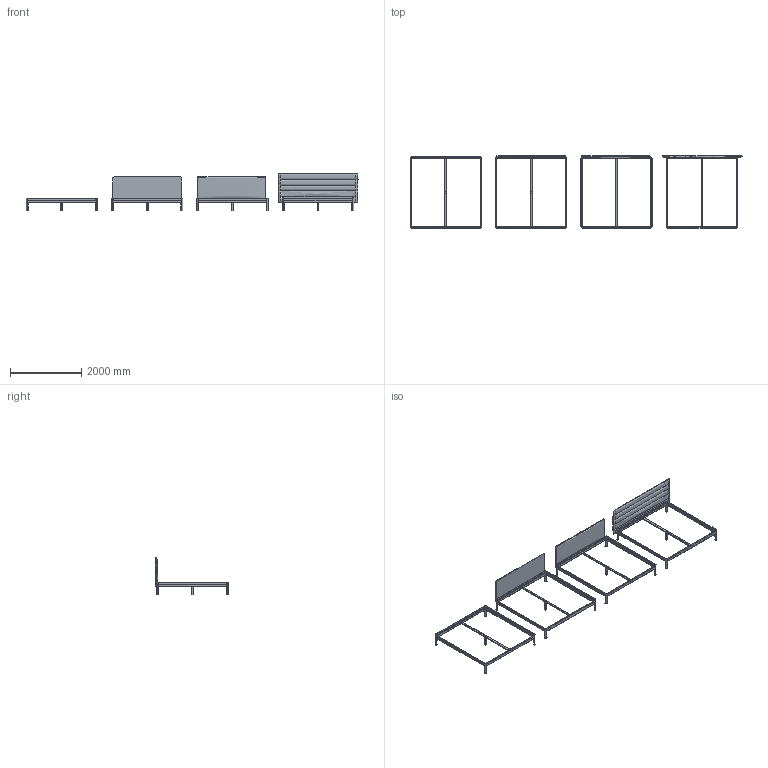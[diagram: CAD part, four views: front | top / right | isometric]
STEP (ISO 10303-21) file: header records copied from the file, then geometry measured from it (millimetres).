
FILE_DESCRIPTION(/* description */ (''),/* implementation_level */ '2;1');
FILE_NAME(/* name */ 'Heia-200x200',/* time_stamp */ '2025-10-15T11:17:29+02:00',/* author */ (''),/* organization */ (''),/* preprocessor_version */ 'ST-DEVELOPER v16.5',/* originating_system */ 'Rhino 7.38',/* authorisation */ '');
FILE_SCHEMA (('CONFIG_CONTROL_DESIGN'));
Length unit declared in the file: millimetre
Products named in the file (1): Document
Bounding box: 9329.28 x 2033.48 x 1051.22 mm (x, y, z)
Volume: 182762315.7 mm3; surface area: 22685088 mm2
Topology: 62 solids, 63 shells, 1700 faces, 4146 edges, 2558 vertices
Faces by surface type: plane 710, cylinder 664, bspline 326
Entity records: 58083 total; most frequent: CARTESIAN_POINT 31719, ORIENTED_EDGE 8266, EDGE_CURVE 4138, VERTEX_POINT 2558, B_SPLINE_CURVE_WITH_KNOTS 1827, EDGE_LOOP 1740, ADVANCED_FACE 1700, FACE_OUTER_BOUND 1700
